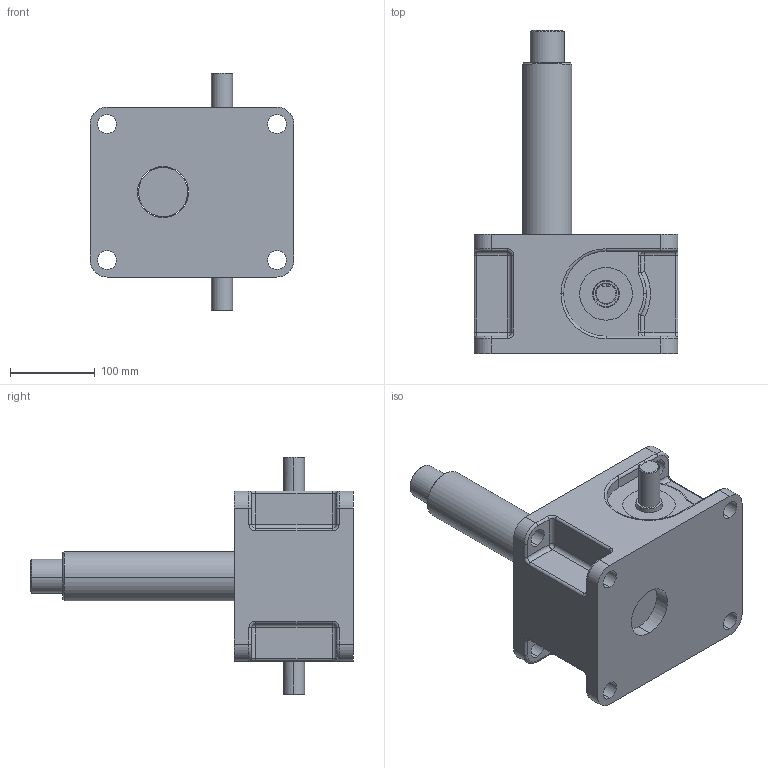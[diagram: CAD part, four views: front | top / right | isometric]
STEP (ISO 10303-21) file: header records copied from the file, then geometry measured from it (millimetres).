
FILE_DESCRIPTION (( 'STEP AP203' ), '1' );
FILE_NAME ('montagem.STEP', '2008-07-31T00:19:10', ( 'Cliente' ), ( 'Home' ), 'SwSTEP 2.0', 'SolidWorks 2008', '' );
FILE_SCHEMA (( 'CONFIG_CONTROL_DESIGN' ));
Length unit declared in the file: millimetre
Products named in the file (6): sem fim; fuso; montagem; carcaça nova; vedação; rolamento
Assembly tree (7 placements, depth 2):
  montagem
    carcaça nova
    sem fim
    vedação  x2
    rolamento  x2
    fuso
Bounding box: 240 x 380 x 280 mm (x, y, z)
Volume: 6099811.9 mm3; surface area: 435806.3 mm2
Topology: 7 solids, 7 shells, 285 faces, 649 edges, 381 vertices
Faces by surface type: cylinder 121, cone 62, plane 57, torus 37, sphere 8
Entity records: 7845 total; most frequent: CARTESIAN_POINT 1418, DIRECTION 1345, ORIENTED_EDGE 1118, EDGE_CURVE 559, AXIS2_PLACEMENT_3D 552, VERTEX_POINT 333, CIRCLE 298, EDGE_LOOP 276
